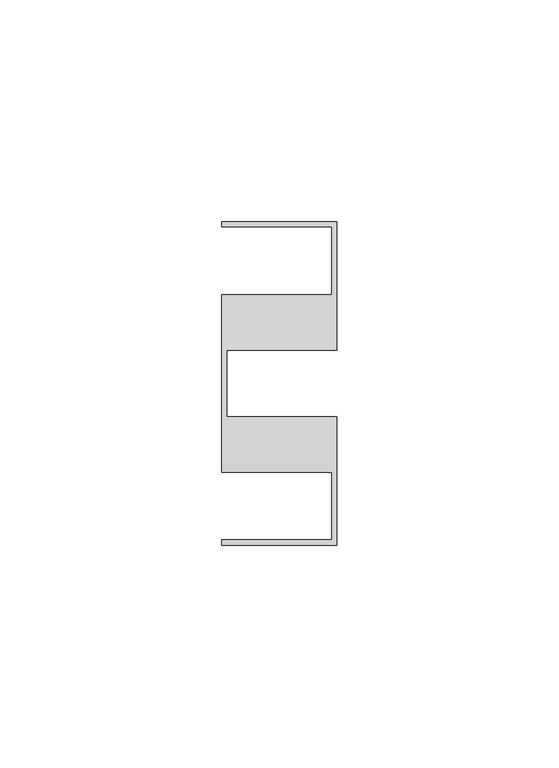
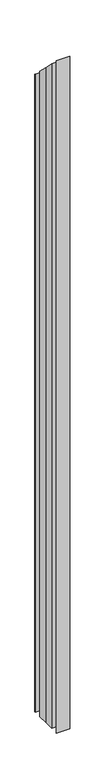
"""IFC4 building model written with IfcOpenShell, lengths in millimetres: member geometry, Прямоугольный импост : 10-AMG-2-Профиль 26Х73 Низ Л."""

from ifc_helpers import new_model, si_unit, origin, place, context, project, spatial, faceted_brep, source, transform, mapped, element, save


def member_eae1733a(model_context):
    return source(origin(), model_context, "Body", "Brep", [
        faceted_brep([(-26.0, -36.5, -1359.6001349), (-26.0, -35.3, -1359.6001349), (-1.2, -35.3, -1359.6001349), (-1.2, -20.0, -1359.6001349), (-26.0, -20.0, -1359.6001349), (-26.0, 0.0, -1359.6001349), (-26.0, 20.0, -1359.6001349), (-1.2, 20.0, -1359.6001349), (-1.2, 35.3116043, -1359.6001349), (-26.0, 35.3116043, -1359.6001349), (-26.0, 36.5, -1359.6001349), (0.0, 36.5, -1359.6001349), (0.0, 7.5116043, -1359.6001349), (-24.8, 7.5116043, -1359.6001349), (-24.8, 0.0, -1359.6001349), (-24.8, -7.5116043, -1359.6001349), (0.0, -7.5116043, -1359.6001349), (0.0, -36.5, -1359.6001349), (0.0, -36.5, 36.5), (-26.0, -36.5, 36.5), (0.0, -7.5116043, 7.5116043), (-24.8, -7.5116043, 7.5116043), (-24.8, 0.0, 0.0), (-24.8, 7.5116043, -7.5116043), (0.0, 7.5116043, -7.5116043), (0.0, 36.5, -36.5), (-26.0, 36.5, -36.5), (-26.0, 35.3116043, -35.3116043), (-1.2, 35.3116043, -35.3116043), (-1.2, 20.0, -20.0), (-26.0, 20.0, -20.0), (-26.0, 0.0, 0.0), (-26.0, -20.0, 20.0), (-1.2, -20.0, 20.0), (-1.2, -35.3, 35.3), (-26.0, -35.3, 35.3)], [[[0, 1, 2, 3, 4, 5, 6, 7, 8, 9, 10, 11, 12, 13, 14, 15, 16, 17]], [[18, 19, 0, 17]], [[20, 18, 17, 16]], [[21, 20, 16, 15]], [[22, 21, 15, 14]], [[23, 22, 14, 13]], [[24, 23, 13, 12]], [[25, 24, 12, 11]], [[26, 25, 11, 10]], [[27, 26, 10, 9]], [[28, 27, 9, 8]], [[29, 28, 8, 7]], [[30, 29, 7, 6]], [[31, 30, 6, 5]], [[32, 31, 5, 4]], [[33, 32, 4, 3]], [[34, 33, 3, 2]], [[35, 34, 2, 1]], [[19, 35, 1, 0]], [[19, 18, 20, 21, 22, 23, 24, 25, 26, 27, 28, 29, 30, 31, 32, 33, 34, 35]]]),
    ])


if __name__ == "__main__":
    model = new_model("IFC4")
    model_context = context("Model", 3, world=origin())
    ifc_project = project(units=[si_unit("LENGTHUNIT", "METRE", prefix="MILLI")], contexts=[model_context])
    site = spatial("IfcSite", under=ifc_project)
    building = spatial("IfcBuilding", under=site)
    placement = place(None, origin())
    member_shape = member_eae1733a(model_context)
    element("IfcMember", 1, ObjectType="Прямоугольный импост : 10-AMG-2-Профиль 26Х73 Низ Л", at=placement, inside=building, context=model_context, shape_type="MappedRepresentation", body=[
        mapped(member_shape, transform((0.0, 0.0, 0.0), x_axis=(1.0, 0.0, 0.0), y_axis=(0.0, 1.0, 0.0), z_axis=(0.0, 0.0, 1.0))),
    ])
    save(model, "model.ifc")
